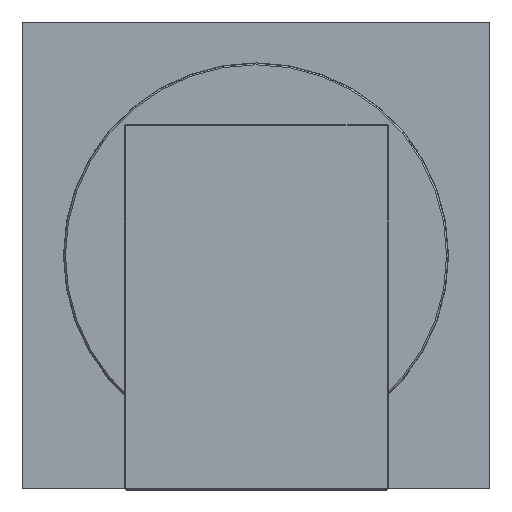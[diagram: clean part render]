
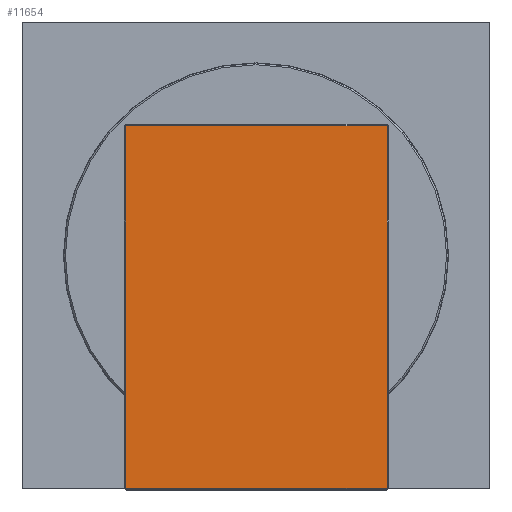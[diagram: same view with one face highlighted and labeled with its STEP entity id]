
A CAD part, top view. The second image highlights one B-rep face of the part: STEP entity #11654.
In plain terms, the highlighted planar face has unit normal (0, 0, 1) as drawn and (0, -1, 0) by its records, which use the part's own axes.
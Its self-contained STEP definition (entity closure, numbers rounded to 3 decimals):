
#1690 = VERTEX_POINT ( 'NONE', #17377 ) ;
#1957 = VECTOR ( 'NONE', #20483, 1000. ) ;
#2744 = VERTEX_POINT ( 'NONE', #9290 ) ;
#2843 = ORIENTED_EDGE ( 'NONE', *, *, #20162, .T. ) ;
#3490 = FACE_OUTER_BOUND ( 'NONE', #7404, .T. ) ;
#3663 = PLANE ( 'NONE',  #15794 ) ;
#3994 = CARTESIAN_POINT ( 'NONE',  ( -29.8, -3., -16.8 ) ) ;
#5302 = ORIENTED_EDGE ( 'NONE', *, *, #13901, .T. ) ;
#5734 = DIRECTION ( 'NONE',  ( -1., 0., 0. ) ) ;
#6381 = LINE ( 'NONE', #6710, #20811 ) ;
#6710 = CARTESIAN_POINT ( 'NONE',  ( 16.8, -3., 17. ) ) ;
#7192 = VERTEX_POINT ( 'NONE', #9753 ) ;
#7404 = EDGE_LOOP ( 'NONE', ( #2843, #30195, #5302, #30692 ) ) ;
#8562 = VECTOR ( 'NONE', #5734, 1000. ) ;
#9290 = CARTESIAN_POINT ( 'NONE',  ( -29.8, -3., 16.8 ) ) ;
#9753 = CARTESIAN_POINT ( 'NONE',  ( 16.8, -3., -16.8 ) ) ;
#10568 = CARTESIAN_POINT ( 'NONE',  ( 17., -3., -16.8 ) ) ;
#10776 = CARTESIAN_POINT ( 'NONE',  ( -67., -3., 16.8 ) ) ;
#11654 = ADVANCED_FACE ( 'NONE', ( #3490 ), #3663, .T. ) ;
#11739 = DIRECTION ( 'NONE',  ( 0., 0., 1. ) ) ;
#13013 = LINE ( 'NONE', #10568, #1957 ) ;
#13901 = EDGE_CURVE ( 'NONE', #28679, #7192, #13013, .T. ) ;
#15523 = DIRECTION ( 'NONE',  ( 0., -1., 0. ) ) ;
#15794 = AXIS2_PLACEMENT_3D ( 'NONE', #30146, #15523, #25454 ) ;
#16189 = CARTESIAN_POINT ( 'NONE',  ( -29.8, -3., -17. ) ) ;
#17377 = CARTESIAN_POINT ( 'NONE',  ( 16.8, -3., 16.8 ) ) ;
#20162 = EDGE_CURVE ( 'NONE', #1690, #2744, #30894, .T. ) ;
#20483 = DIRECTION ( 'NONE',  ( 1., 0., 0. ) ) ;
#20811 = VECTOR ( 'NONE', #11739, 1000. ) ;
#21081 = VECTOR ( 'NONE', #25790, 1000. ) ;
#25454 = DIRECTION ( 'NONE',  ( 0., 0., -1. ) ) ;
#25790 = DIRECTION ( 'NONE',  ( 0., 0., -1. ) ) ;
#26265 = EDGE_CURVE ( 'NONE', #2744, #28679, #28373, .T. ) ;
#28373 = LINE ( 'NONE', #16189, #21081 ) ;
#28679 = VERTEX_POINT ( 'NONE', #3994 ) ;
#30146 = CARTESIAN_POINT ( 'NONE',  ( -67., -3., -17. ) ) ;
#30195 = ORIENTED_EDGE ( 'NONE', *, *, #26265, .T. ) ;
#30692 = ORIENTED_EDGE ( 'NONE', *, *, #31118, .T. ) ;
#30894 = LINE ( 'NONE', #10776, #8562 ) ;
#31118 = EDGE_CURVE ( 'NONE', #7192, #1690, #6381, .T. ) ;
